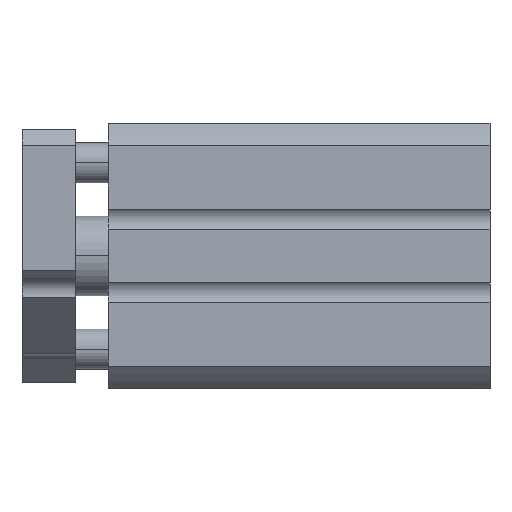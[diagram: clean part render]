
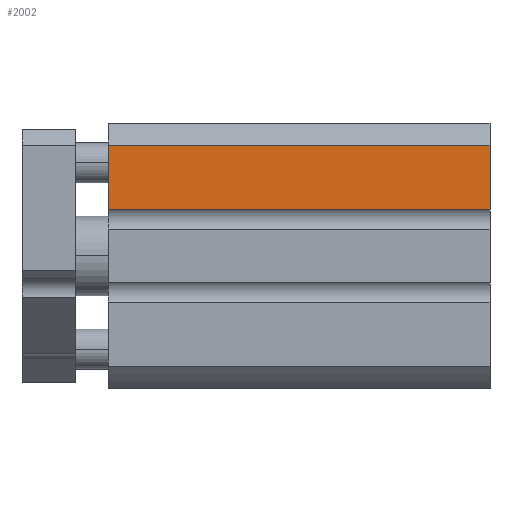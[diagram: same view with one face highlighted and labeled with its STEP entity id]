
A CAD part, top view. The second image highlights one B-rep face of the part: STEP entity #2002.
In plain terms, the highlighted planar face has unit normal (0, 0, 1).
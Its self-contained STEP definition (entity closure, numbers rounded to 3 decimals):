
#220 = CARTESIAN_POINT ( 'NONE',  ( 57.5, 16.613, 20. ) ) ;
#237 = CARTESIAN_POINT ( 'NONE',  ( 57.5, 16.613, 20. ) ) ;
#283 = LINE ( 'NONE', #4498, #2500 ) ;
#350 = DIRECTION ( 'NONE',  ( 0., -1., 0. ) ) ;
#691 = DIRECTION ( 'NONE',  ( 0., -1., 0. ) ) ;
#809 = CARTESIAN_POINT ( 'NONE',  ( 57.5, 7., 20. ) ) ;
#890 = ORIENTED_EDGE ( 'NONE', *, *, #1307, .F. ) ;
#897 = DIRECTION ( 'NONE',  ( -1., 0., 0. ) ) ;
#1012 = EDGE_LOOP ( 'NONE', ( #4717, #1420, #890, #3119 ) ) ;
#1104 = EDGE_CURVE ( 'NONE', #3322, #3623, #4356, .T. ) ;
#1117 = EDGE_CURVE ( 'NONE', #3092, #2535, #1349, .T. ) ;
#1307 = EDGE_CURVE ( 'NONE', #3322, #3092, #283, .T. ) ;
#1349 = LINE ( 'NONE', #3951, #2185 ) ;
#1420 = ORIENTED_EDGE ( 'NONE', *, *, #1117, .F. ) ;
#1709 = CARTESIAN_POINT ( 'NONE',  ( 0., 16.613, 20. ) ) ;
#1940 = DIRECTION ( 'NONE',  ( 0., 0., -1. ) ) ;
#2002 = ADVANCED_FACE ( 'NONE', ( #2796 ), #2429, .F. ) ;
#2185 = VECTOR ( 'NONE', #4673, 1000. ) ;
#2429 = PLANE ( 'NONE',  #4282 ) ;
#2500 = VECTOR ( 'NONE', #350, 1000. ) ;
#2535 = VERTEX_POINT ( 'NONE', #4409 ) ;
#2796 = FACE_OUTER_BOUND ( 'NONE', #1012, .T. ) ;
#2953 = EDGE_CURVE ( 'NONE', #3623, #2535, #3999, .T. ) ;
#3092 = VERTEX_POINT ( 'NONE', #809 ) ;
#3119 = ORIENTED_EDGE ( 'NONE', *, *, #1104, .T. ) ;
#3322 = VERTEX_POINT ( 'NONE', #220 ) ;
#3515 = DIRECTION ( 'NONE',  ( 0., -1., 0. ) ) ;
#3605 = VECTOR ( 'NONE', #897, 1000. ) ;
#3623 = VERTEX_POINT ( 'NONE', #4263 ) ;
#3937 = CARTESIAN_POINT ( 'NONE',  ( 57.5, 16.613, 20. ) ) ;
#3951 = CARTESIAN_POINT ( 'NONE',  ( 57.5, 7., 20. ) ) ;
#3999 = LINE ( 'NONE', #1709, #4326 ) ;
#4263 = CARTESIAN_POINT ( 'NONE',  ( 0., 16.613, 20. ) ) ;
#4282 = AXIS2_PLACEMENT_3D ( 'NONE', #3937, #1940, #3515 ) ;
#4326 = VECTOR ( 'NONE', #691, 1000. ) ;
#4356 = LINE ( 'NONE', #237, #3605 ) ;
#4409 = CARTESIAN_POINT ( 'NONE',  ( 0., 7., 20. ) ) ;
#4498 = CARTESIAN_POINT ( 'NONE',  ( 57.5, 16.613, 20. ) ) ;
#4673 = DIRECTION ( 'NONE',  ( -1., 0., 0. ) ) ;
#4717 = ORIENTED_EDGE ( 'NONE', *, *, #2953, .T. ) ;
